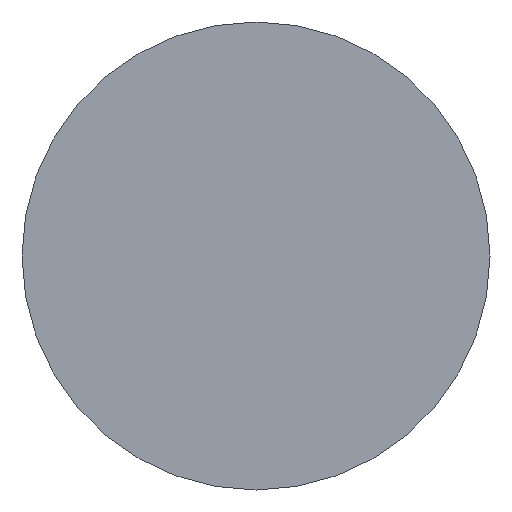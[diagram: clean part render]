
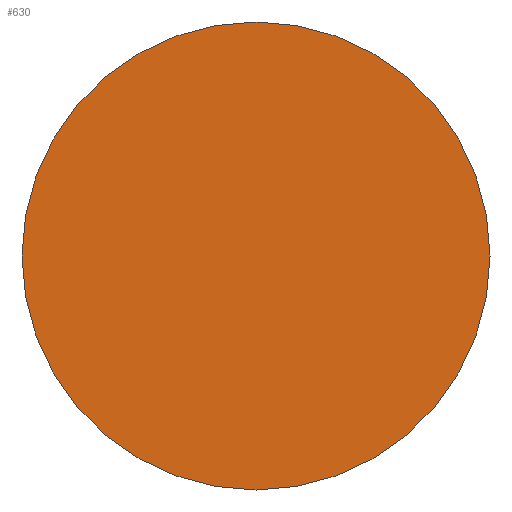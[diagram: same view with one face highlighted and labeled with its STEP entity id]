
A CAD part, front view. The second image highlights one B-rep face of the part: STEP entity #630.
In plain terms, the highlighted planar face has unit normal (0, -1, 0).
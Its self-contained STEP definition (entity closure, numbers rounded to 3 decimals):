
#241=CIRCLE('',#784,9.5);
#261=FACE_OUTER_BOUND('',#292,.T.);
#292=EDGE_LOOP('',(#544));
#412=VERTEX_POINT('',#1204);
#460=EDGE_CURVE('',#412,#412,#241,.T.);
#544=ORIENTED_EDGE('',*,*,#460,.F.);
#606=PLANE('',#783);
#630=ADVANCED_FACE('',(#261),#606,.T.);
#783=AXIS2_PLACEMENT_3D('',#1203,#942,#943);
#784=AXIS2_PLACEMENT_3D('',#1205,#944,#945);
#942=DIRECTION('center_axis',(0.,-1.,0.));
#943=DIRECTION('ref_axis',(0.,0.,-1.));
#944=DIRECTION('center_axis',(0.,1.,0.));
#945=DIRECTION('ref_axis',(1.,0.,0.));
#1203=CARTESIAN_POINT('Origin',(9.5,0.,0.));
#1204=CARTESIAN_POINT('',(-9.5,0.,0.));
#1205=CARTESIAN_POINT('Origin',(0.,0.,0.));
